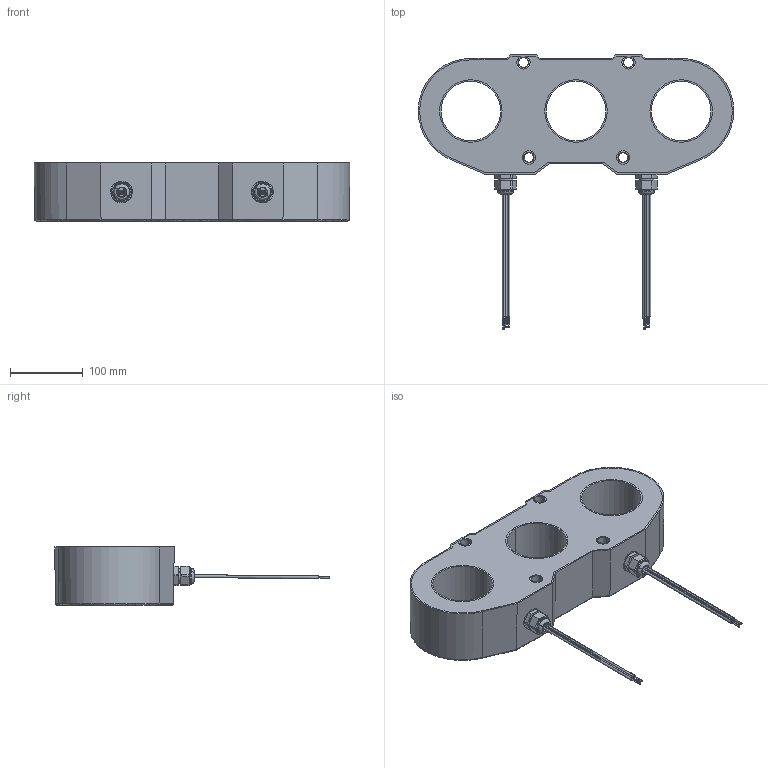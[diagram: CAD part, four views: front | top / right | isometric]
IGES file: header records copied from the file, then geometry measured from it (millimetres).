
Start section: IGES file generated from Kompas f.0 for Windows drawing by the IGES translator from Ascon Ltd., translator version IGESOUT-5.1.
Global section: file name: C:\Ðàáîòà\Èçâåùåíèÿ 5\ÒØÏ-ÍÒÇ-0.66-51\×åðòåæè èçì.1\3D\èçì.3\Ñáîðêà ÒØÏ-ÍÒÇ-0,66-51 vers.2.igs; native system: Kompas( 32 bit ) for Windows; preprocessor: 1.0; author: 123; organization: Microsoft; date: -17740021:090417; units: millimetre
Bounding box: 434.94 x 378.23 x 80 mm (x, y, z)
Volume: 874861.8 mm3; surface area: 548368.6 mm2
Topology: 12 solids, 12 shells, 378 faces, 920 edges, 586 vertices
Faces by surface type: revolution 194, bspline 184
